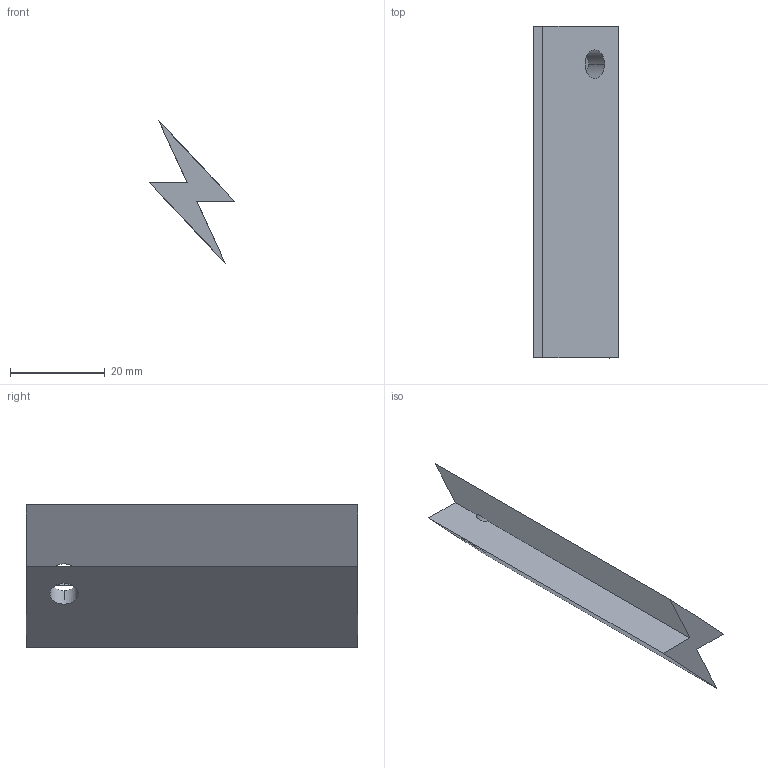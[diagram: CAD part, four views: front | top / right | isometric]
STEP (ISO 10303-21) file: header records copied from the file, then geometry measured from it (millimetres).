
FILE_DESCRIPTION (( 'STEP AP203' ), '1' );
FILE_NAME ('POINÇON_DE_MARQUAGE.STEP', '2008-04-17T14:55:04', ( ' ' ), ( ' ' ), 'SwSTEP 2.0', 'SolidWorks 2007', '' );
FILE_SCHEMA (( 'CONFIG_CONTROL_DESIGN' ));
Length unit declared in the file: millimetre
Products named in the file (1): POINÇON_DE_MARQUAGE
Bounding box: 18 x 70 x 30 mm (x, y, z)
Volume: 9369.8 mm3; surface area: 6787.1 mm2
Topology: 1 solids, 1 shells, 10 faces, 36 edges, 24 vertices
Faces by surface type: plane 8, cylinder 2
Entity records: 473 total; most frequent: CARTESIAN_POINT 95, ORIENTED_EDGE 72, DIRECTION 54, EDGE_CURVE 36, VERTEX_POINT 24, LINE 24, VECTOR 24, AXIS2_PLACEMENT_3D 15
